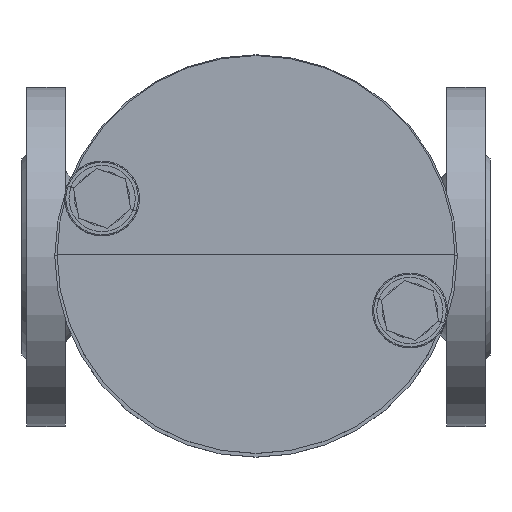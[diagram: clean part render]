
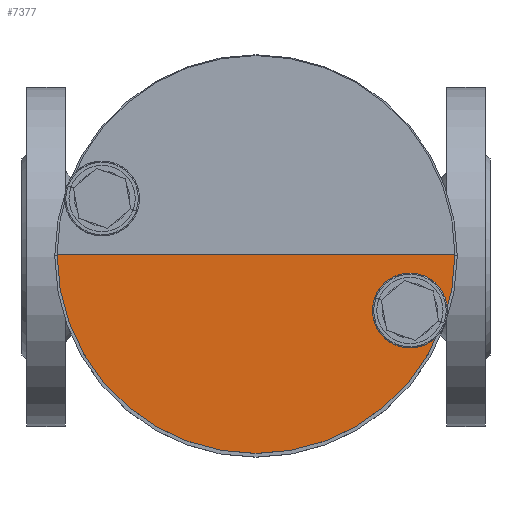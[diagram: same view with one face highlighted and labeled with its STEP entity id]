
A CAD part, top view. The second image highlights one B-rep face of the part: STEP entity #7377.
In plain terms, the highlighted planar face has unit normal (0, 0, 1).
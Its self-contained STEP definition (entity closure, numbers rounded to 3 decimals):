
#526=LINE('',#13744,#891);
#891=VECTOR('',#9871,304.8);
#1503=FACE_OUTER_BOUND('',#2029,.T.);
#2029=EDGE_LOOP('',(#5489,#5490));
#2612=CIRCLE('',#8182,84.997);
#3171=VERTEX_POINT('',#13727);
#3172=VERTEX_POINT('',#13729);
#3945=EDGE_CURVE('',#3172,#3171,#2612,.T.);
#3950=EDGE_CURVE('',#3171,#3172,#526,.T.);
#5489=ORIENTED_EDGE('',*,*,#3945,.F.);
#5490=ORIENTED_EDGE('',*,*,#3950,.F.);
#6523=PLANE('',#8188);
#7377=ADVANCED_FACE('',(#1503),#6523,.F.);
#8182=AXIS2_PLACEMENT_3D('',#13734,#9857,#9858);
#8188=AXIS2_PLACEMENT_3D('',#13745,#9872,#9873);
#9857=DIRECTION('center_axis',(0.,0.,-1.));
#9858=DIRECTION('ref_axis',(-1.,0.,0.));
#9871=DIRECTION('',(1.,0.,0.));
#9872=DIRECTION('center_axis',(0.,0.,-1.));
#9873=DIRECTION('ref_axis',(-1.,0.,0.));
#13727=CARTESIAN_POINT('',(-84.997,0.,479.305));
#13729=CARTESIAN_POINT('',(84.997,0.,479.305));
#13734=CARTESIAN_POINT('Origin',(0.,0.,479.305));
#13744=CARTESIAN_POINT('',(-84.997,0.,479.305));
#13745=CARTESIAN_POINT('Origin',(0.,0.,479.305));
